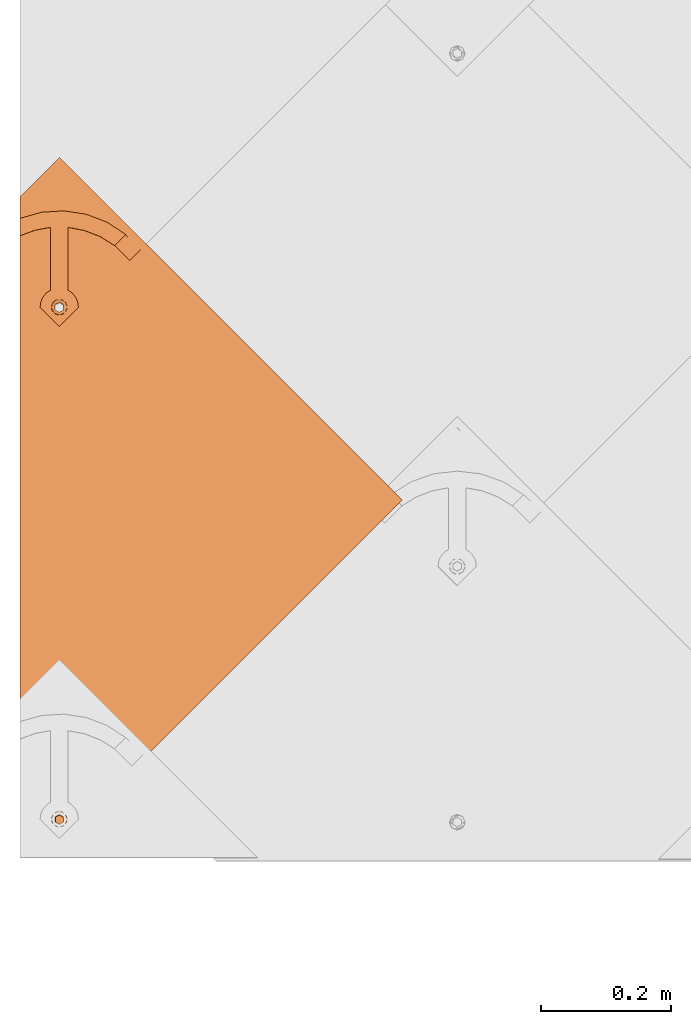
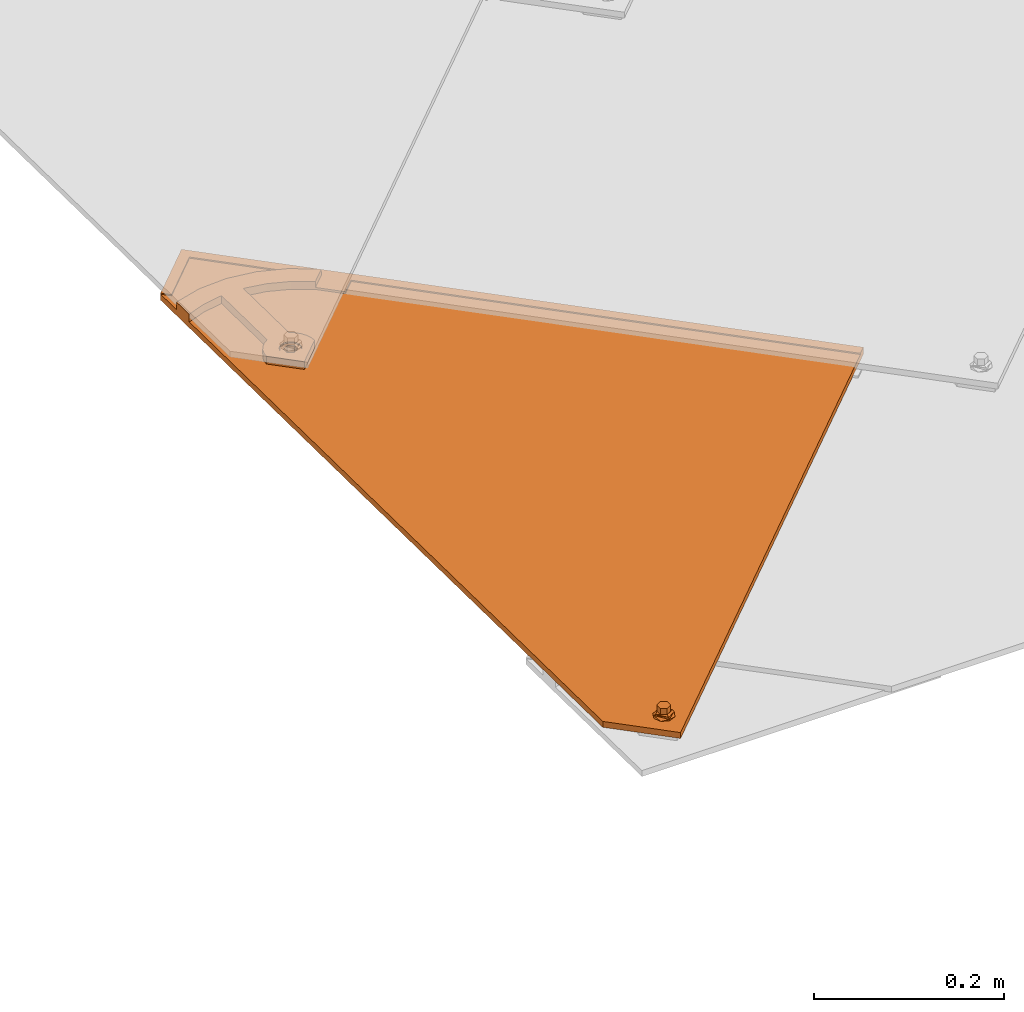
# One storey, part 70 of 133: 1 proxy.
"""IFC2X3 building model written with IfcOpenShell, lengths in millimetres."""

from ifc_helpers import new_model, entity, si_unit, converted_unit, derived_unit, direction, frame, origin, place, context, subcontext, project, spatial, faceted_brep, source, transform, mapped, material, material_list, type_object, type_shapes, element, save


model = new_model("IFC2X3")

# Units and contexts
model_context = context("Model", 3, precision=0.01, world=origin(), true_north=direction((6.12303176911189e-17, 1.0)))
body_context = subcontext(model_context, "Body", "Model", "MODEL_VIEW")
ifc_project = project(units=[si_unit("LENGTHUNIT", "METRE", prefix="MILLI"), si_unit("AREAUNIT", "SQUARE_METRE"), si_unit("VOLUMEUNIT", "CUBIC_METRE"), converted_unit("PLANEANGLEUNIT", "DEGREE", entity("IfcRatioMeasure", 0.0174532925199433), si_unit("PLANEANGLEUNIT", "RADIAN"), dimensions=[0, 0, 0, 0, 0, 0, 0]), si_unit("MASSUNIT", "GRAM", prefix="KILO"), derived_unit("MASSDENSITYUNIT", [(si_unit("MASSUNIT", "GRAM", prefix="KILO"), 1), (si_unit("LENGTHUNIT", "METRE"), -3)]), si_unit("TIMEUNIT", "SECOND"), si_unit("FREQUENCYUNIT", "HERTZ"), si_unit("THERMODYNAMICTEMPERATUREUNIT", "DEGREE_CELSIUS"), derived_unit("THERMALTRANSMITTANCEUNIT", [(si_unit("MASSUNIT", "GRAM", prefix="KILO"), 1), (si_unit("THERMODYNAMICTEMPERATUREUNIT", "KELVIN"), -1), (si_unit("TIMEUNIT", "SECOND"), -3)]), derived_unit("VOLUMETRICFLOWRATEUNIT", [(si_unit("LENGTHUNIT", "METRE"), 3), (si_unit("TIMEUNIT", "SECOND"), -1)]), si_unit("ELECTRICCURRENTUNIT", "AMPERE"), si_unit("ELECTRICVOLTAGEUNIT", "VOLT"), si_unit("POWERUNIT", "WATT"), si_unit("FORCEUNIT", "NEWTON", prefix="KILO"), si_unit("ILLUMINANCEUNIT", "LUX"), si_unit("LUMINOUSFLUXUNIT", "LUMEN"), si_unit("LUMINOUSINTENSITYUNIT", "CANDELA"), derived_unit("USERDEFINED", [(si_unit("MASSUNIT", "GRAM", prefix="KILO"), -1), (si_unit("LENGTHUNIT", "METRE"), -2), (si_unit("TIMEUNIT", "SECOND"), 3), (si_unit("LUMINOUSFLUXUNIT", "LUMEN"), 1)]), derived_unit("LINEARVELOCITYUNIT", [(si_unit("LENGTHUNIT", "METRE"), 1), (si_unit("TIMEUNIT", "SECOND"), -1)]), si_unit("PRESSUREUNIT", "PASCAL"), derived_unit("USERDEFINED", [(si_unit("LENGTHUNIT", "METRE"), -2), (si_unit("MASSUNIT", "GRAM", prefix="KILO"), 1), (si_unit("TIMEUNIT", "SECOND"), -2)])], contexts=[model_context])

# Site, building, storey
site_placement = place(None, origin())
site = spatial("IfcSite", under=ifc_project, at=site_placement, Name="Default", CompositionType="ELEMENT")
building_placement = place(site_placement, origin())
building = spatial("IfcBuilding", under=site, at=building_placement, CompositionType="ELEMENT")
storey_placement = place(building_placement, origin())
storey = spatial("IfcBuildingStorey", under=building, at=storey_placement, Name="Level 1", CompositionType="ELEMENT", Elevation=0.0)

# Proxy
ifc_material_1 = material(Name="Rubber - Sunstyle - Black")
ifc_material_2 = material(Name="Glass - Sunstyle - Tainted Black")
ifc_material_list_1 = material_list([ifc_material_1, ifc_material_2])
ifc_material_list_2 = material_list([ifc_material_1, ifc_material_2])
building_element_proxy_type = type_object("IfcBuildingElementProxyType", Name="Shingle Left - Black", PredefinedType="NOTDEFINED", material=ifc_material_list_2)
shared_shape = source(origin(), body_context, "Body", "Brep", [
    faceted_brep([(0.0, -484.792260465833, 4.00636906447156), (-5.77420283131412, -488.125530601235, 4.06219304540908), (-5.77420283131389, -487.757221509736, 26.0540623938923), (0.0, -484.423951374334, 25.9982384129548), (-5.77420283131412, -494.792070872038, 4.17384100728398), (-5.7742028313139, -494.42376178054, 26.1657103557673), (0.0, -498.12534100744, 4.22966498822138), (0.0, -497.757031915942, 26.2215343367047), (5.77420283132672, -494.792070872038, 4.17384100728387), (5.77420283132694, -494.42376178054, 26.1657103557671), (5.77420283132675, -488.125530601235, 4.06219304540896), (5.77420283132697, -487.757221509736, 26.0540623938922), (-8.60370416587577, -499.692989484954, 26.2539568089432), (0.0, -503.256260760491, 26.3136327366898), (-12.1674751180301, -491.090491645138, 26.1098863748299), (-8.60370416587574, -482.487993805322, 25.9658159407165), (0.0, -478.924722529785, 25.9061400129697), (8.60370416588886, -482.487993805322, 25.9658159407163), (12.1674751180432, -491.090491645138, 26.1098863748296), (8.60370416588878, -499.692989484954, 26.253956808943), (-11.324244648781, -488.795414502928, 28.4227283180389), (-9.75647455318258, -491.019476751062, 30.3502110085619), (0.0, -483.706401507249, 30.9829114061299), (0.0, -482.465903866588, 30.4025647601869), (0.0, -480.308353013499, 29.3931896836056), (0.0, -502.700216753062, 27.5886907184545), (0.0, -501.756640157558, 29.7523951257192), (0.0, -498.307264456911, 31.2274395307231), (0.0, -479.437758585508, 27.1991024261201), (-6.32324569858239, -494.657048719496, 31.1663074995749), (-6.32324569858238, -487.356617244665, 31.0440434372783), (11.3242446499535, -493.306834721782, 28.498283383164), (9.84888015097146, -492.093883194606, 30.2713428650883), (6.32324569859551, -487.356617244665, 31.0440434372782), (6.32324569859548, -494.657048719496, 31.1663074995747), (-6.32324569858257, -494.523020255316, 39.1691956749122), (0.0, -498.173235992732, 39.2303277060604), (0.0, -490.8728045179, 39.1080636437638), (-6.32324569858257, -487.222588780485, 39.0469316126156), (6.32324569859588, -494.523020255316, 39.1691956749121), (6.32324569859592, -487.222588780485, 39.0469316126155), (0.0, -483.572373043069, 38.9857995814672), (0.0, -491.458800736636, 4.11801702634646)], [[[0, 1, 2, 3]], [[1, 4, 5, 2]], [[4, 6, 7, 5]], [[6, 8, 9, 7]], [[8, 10, 11, 9]], [[10, 0, 3, 11]], [[12, 7, 13]], [[7, 12, 5]], [[14, 5, 12]], [[5, 14, 2]], [[15, 2, 14]], [[3, 2, 15]], [[15, 16, 3]], [[16, 17, 3]], [[11, 3, 17]], [[11, 17, 18]], [[9, 11, 18]], [[18, 19, 9]], [[7, 9, 19]], [[19, 13, 7]], [[20, 14, 12]], [[21, 22, 23, 24]], [[24, 20, 21]], [[25, 20, 12]], [[26, 27, 21]], [[15, 14, 20]], [[12, 13, 25]], [[20, 28, 15]], [[28, 20, 24]], [[21, 27, 29]], [[21, 29, 30]], [[26, 21, 20]], [[20, 25, 26]], [[15, 28, 16]], [[21, 30, 22]], [[31, 18, 17]], [[28, 31, 17]], [[32, 27, 26]], [[26, 31, 32]], [[26, 25, 31]], [[25, 19, 31]], [[17, 16, 28]], [[31, 19, 18]], [[24, 31, 28]], [[33, 34, 32]], [[23, 22, 33]], [[24, 32, 31]], [[27, 32, 34]], [[32, 23, 33]], [[19, 25, 13]], [[32, 24, 23]], [[35, 36, 37]], [[37, 38, 35]], [[36, 39, 37]], [[40, 37, 39]], [[37, 40, 41]], [[37, 41, 38]], [[42, 6, 4]], [[4, 1, 42]], [[1, 0, 42]], [[42, 8, 6]], [[0, 10, 42]], [[8, 42, 10]], [[22, 30, 38, 41]], [[30, 29, 35, 38]], [[29, 27, 36, 35]], [[27, 34, 39, 36]], [[34, 33, 40, 39]], [[33, 22, 41, 40]]]),
    faceted_brep([(0.0, 284.339364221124, 20.2838091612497), (0.0, 288.838732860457, 20.2084559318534), (-8.60370416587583, 287.902635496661, 20.224133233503), (8.60370416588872, 287.902635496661, 20.2241332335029), (6.64022859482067, 292.671933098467, 20.1442593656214), (12.1674751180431, 296.505133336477, 20.0800627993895), (6.64022859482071, 300.338333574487, 20.0158662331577), (8.6037041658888, 305.107631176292, 19.9359923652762), (0.0, 304.171533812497, 19.9516696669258), (0.0, 308.670902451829, 19.8763164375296), (-8.60370416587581, 305.107631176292, 19.9359923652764), (-6.64022859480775, 300.338333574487, 20.0158662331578), (-12.1674751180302, 296.505133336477, 20.0800627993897), (-6.64022859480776, 292.671933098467, 20.1442593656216), (-6.64022823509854, 300.070410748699, 4.01810959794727), (0.0, 303.90361077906, 3.95391303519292), (-6.64022823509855, 292.404010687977, 4.14650272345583), (0.0, 288.570810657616, 4.21069928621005), (6.64022823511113, 292.404010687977, 4.1465027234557), (6.64022823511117, 300.070410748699, 4.01810959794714), (-8.603704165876, 287.634712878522, 4.22637659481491), (0.0, 284.071441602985, 4.28605252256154), (-12.1674751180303, 296.237210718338, 4.08230616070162), (-8.60370416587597, 304.839708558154, 3.93823572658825), (0.0, 308.402979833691, 3.87855979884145), (8.60370416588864, 304.839708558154, 3.93823572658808), (12.1674751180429, 296.237210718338, 4.08230616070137), (8.60370416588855, 287.634712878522, 4.22637659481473)], [[[0, 1, 2]], [[1, 0, 3]], [[3, 4, 1]], [[4, 3, 5]], [[6, 4, 5]], [[5, 7, 6]], [[7, 8, 6]], [[8, 7, 9]], [[8, 9, 10]], [[10, 11, 8]], [[12, 11, 10]], [[2, 13, 12]], [[12, 13, 11]], [[13, 2, 1]], [[8, 11, 14, 15]], [[11, 13, 16, 14]], [[13, 1, 17, 16]], [[1, 4, 18, 17]], [[4, 6, 19, 18]], [[6, 8, 15, 19]], [[20, 17, 21]], [[17, 20, 16]], [[22, 16, 20]], [[14, 16, 22]], [[23, 14, 22]], [[15, 14, 23]], [[23, 24, 15]], [[24, 25, 15]], [[19, 15, 25]], [[19, 25, 26]], [[26, 18, 19]], [[26, 27, 18]], [[17, 18, 27]], [[27, 21, 17]], [[24, 23, 10, 9]], [[10, 23, 22, 12]], [[20, 21, 0, 2]], [[20, 2, 12, 22]], [[21, 27, 3, 0]], [[3, 27, 26, 5]], [[25, 24, 9, 7]], [[25, 7, 5, 26]]]),
    faceted_brep([(518.309865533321, -8.21171787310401, 16.4411500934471), (526.794551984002, 0.272968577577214, 16.299052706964), (526.794551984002, 0.298086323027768, 17.798842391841), (518.309865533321, -8.18660012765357, 17.9409397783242), (0.0, 509.952813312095, 7.76318349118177), (-51.6190674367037, 458.348219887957, 8.62743202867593), (-60.1037538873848, 466.832906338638, 8.48533464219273), (0.0, 526.919807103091, 7.47902856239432), (0.0, 526.944924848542, 8.97881824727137), (-60.1037538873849, 466.858024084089, 9.98512432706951), (-51.6190674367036, 458.373337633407, 10.1272217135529), (0.0, 509.977931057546, 9.26297317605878)], [[[0, 1, 2, 3]], [[1, 0, 4, 5, 6, 7]], [[2, 1, 7, 8]], [[3, 2, 8, 9, 10, 11]], [[0, 3, 11, 4]], [[5, 10, 9, 6]], [[8, 7, 6, 9]], [[4, 11, 10, 5]]]),
    faceted_brep([(3.08877637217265, 308.328619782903, 11.1398870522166), (0.0, 526.91980710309, 7.47902856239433), (-60.1037538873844, 466.832906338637, 8.48533464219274), (5.98294783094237, 307.129982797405, 11.1599612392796), (-0.0170521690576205, 308.737452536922, 11.133040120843), (8.46822920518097, 305.223226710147, 11.1918946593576), (10.3752526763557, 302.738293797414, 11.2335111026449), (11.5740577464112, 299.844528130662, 11.2819744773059), (526.794551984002, 0.272968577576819, 16.299052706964), (11.9829478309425, 296.739135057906, 11.3339820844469), (11.5740577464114, 293.63374198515, 11.3859896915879), (10.3752526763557, 290.739976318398, 11.4344530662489), (8.46822920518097, 288.255043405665, 11.4760695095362), (5.9829478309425, 286.348287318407, 11.5080029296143), (3.08877637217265, 285.149650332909, 11.5280771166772), (2.03352718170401, -483.329519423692, 24.3981910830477), (-60.1037538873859, -466.286969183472, 24.112770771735), (-0.0170521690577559, 284.74081757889, 11.5349240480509), (-3.12288071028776, 285.149650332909, 11.5280771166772), (-6.01705216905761, 286.348287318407, 11.5080029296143), (-8.50233354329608, 288.255043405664, 11.4760695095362), (-10.409357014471, 290.739976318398, 11.4344530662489), (-11.6081620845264, 293.63374198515, 11.3859896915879), (-12.0170521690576, 296.739135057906, 11.3339820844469), (-11.6081620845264, 299.844528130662, 11.2819744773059), (-10.4093570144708, 302.738293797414, 11.2335111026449), (-8.50233354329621, 305.223226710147, 11.1918946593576), (-6.01705216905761, 307.129982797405, 11.1599612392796), (-3.12288071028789, 308.328619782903, 11.1398870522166), (-0.0370251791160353, -483.056964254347, 24.3936264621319), (-2.10757753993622, -483.329519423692, 24.3981910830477), (-4.03702517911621, -484.128610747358, 24.411573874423), (-5.69387942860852, -485.399781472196, 24.4328628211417), (-6.96522840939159, -487.056403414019, 24.4606071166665), (-7.76443178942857, -488.985580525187, 24.4929160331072), (-8.03702517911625, -491.055842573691, 24.5275877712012), (-7.76443178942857, -493.126104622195, 24.5622595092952), (-6.96522840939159, -495.055281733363, 24.5945684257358), (0.0, -526.373869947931, 25.1190768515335), (-5.69387942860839, -496.711903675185, 24.6223127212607), (-4.03702517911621, -497.983074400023, 24.6436016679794), (-2.10757753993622, -498.782165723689, 24.6569844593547), (-0.0370251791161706, -499.054720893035, 24.6615490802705), (2.03352718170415, -498.782165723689, 24.6569844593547), (3.96297482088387, -497.983074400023, 24.6436016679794), (5.61982907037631, -496.711903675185, 24.6223127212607), (6.89117805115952, -495.055281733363, 24.5945684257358), (7.6903814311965, -493.126104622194, 24.5622595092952), (3.96297482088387, -484.128610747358, 24.411573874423), (5.61982907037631, -485.399781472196, 24.4328628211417), (6.89117805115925, -487.056403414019, 24.4606071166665), (7.6903814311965, -488.985580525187, 24.4929160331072), (7.96297482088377, -491.055842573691, 24.5275877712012), (-60.1037538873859, -466.412557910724, 16.6138223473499), (-6.96522840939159, -487.181992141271, 16.9616586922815), (-7.7644317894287, -489.111169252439, 16.9939676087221), (-5.69387942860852, -485.525370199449, 16.9339143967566), (-8.03702517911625, -491.181431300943, 17.0286393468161), (-7.76443178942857, -493.251693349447, 17.0633110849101), (-6.96522840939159, -495.180870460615, 17.0956200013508), (0.0, -526.499458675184, 17.6201284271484), (-4.03702517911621, -484.254199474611, 16.9126254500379), (-2.10757753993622, -483.455108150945, 16.8992426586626), (-0.0370251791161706, -483.182552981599, 16.8946780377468), (2.03352718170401, -483.455108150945, 16.8992426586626), (3.08877637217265, 285.024061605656, 4.02912869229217), (-0.0170521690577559, 284.615228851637, 4.03597562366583), (-3.12288071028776, 285.024061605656, 4.02912869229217), (-6.01705216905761, 286.222698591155, 4.00905450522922), (-8.50233354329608, 288.129454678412, 3.97712108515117), (-10.409357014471, 290.614387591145, 3.93550464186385), (-11.6081620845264, 293.508153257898, 3.88704126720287), (-60.1037538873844, 466.707317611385, 0.986386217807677), (-12.0170521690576, 296.613546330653, 3.83503366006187), (-11.6081620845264, 299.718939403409, 3.78302605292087), (-10.4093570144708, 302.612705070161, 3.73456267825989), (-8.50233354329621, 305.097637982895, 3.69294623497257), (-6.01705216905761, 307.004394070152, 3.66101281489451), (-3.12288071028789, 308.203031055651, 3.64093862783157), (-0.0170521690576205, 308.61186380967, 3.63409169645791), (3.08877637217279, 308.203031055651, 3.64093862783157), (0.0, 526.794218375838, -0.0199198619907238), (5.98294783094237, 307.004394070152, 3.66101281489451), (8.46822920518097, 305.097637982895, 3.69294623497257), (10.3752526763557, 302.612705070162, 3.73456267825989), (11.5740577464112, 299.718939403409, 3.78302605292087), (526.794551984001, 0.147379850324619, 8.8001042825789), (3.96297482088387, -484.254199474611, 16.9126254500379), (5.61982907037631, -485.525370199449, 16.9339143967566), (7.6903814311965, -493.251693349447, 17.0633110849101), (7.96297482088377, -491.181431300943, 17.0286393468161), (7.6903814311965, -489.111169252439, 16.9939676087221), (6.89117805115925, -487.181992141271, 16.9616586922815), (5.9829478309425, 286.222698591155, 4.00905450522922), (8.46822920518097, 288.129454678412, 3.97712108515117), (11.9829478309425, 296.613546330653, 3.83503366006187), (11.5740577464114, 293.508153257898, 3.88704126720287), (10.3752526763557, 290.614387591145, 3.93550464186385), (-5.69387942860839, -496.837492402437, 17.1233642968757), (-4.03702517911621, -498.108663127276, 17.1446532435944), (-2.10757753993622, -498.907754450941, 17.1580360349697), (-0.0370251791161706, -499.180309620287, 17.1626006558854), (2.03352718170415, -498.907754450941, 17.1580360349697), (3.96297482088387, -498.108663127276, 17.1446532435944), (5.61982907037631, -496.837492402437, 17.1233642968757), (6.89117805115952, -495.180870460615, 17.0956200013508)], [[[0, 1, 2]], [[0, 3, 1]], [[4, 0, 2]], [[1, 3, 5]], [[6, 1, 5]], [[7, 1, 6]], [[7, 8, 1]], [[9, 8, 7]], [[8, 9, 10]], [[8, 10, 11]], [[11, 12, 8]], [[12, 13, 8]], [[13, 14, 8]], [[14, 15, 8]], [[14, 16, 15]], [[16, 14, 17]], [[16, 17, 18]], [[16, 18, 19]], [[20, 16, 19]], [[20, 21, 16]], [[21, 22, 16]], [[23, 2, 22]], [[2, 16, 22]], [[23, 24, 2]], [[25, 2, 24]], [[25, 26, 2]], [[26, 27, 2]], [[28, 2, 27]], [[4, 2, 28]], [[16, 29, 15]], [[29, 16, 30]], [[30, 16, 31]], [[16, 32, 31]], [[32, 16, 33]], [[33, 16, 34]], [[35, 34, 16]], [[35, 16, 36]], [[37, 36, 16]], [[16, 38, 37]], [[39, 37, 38]], [[40, 39, 38]], [[41, 40, 38]], [[38, 42, 41]], [[42, 38, 43]], [[44, 43, 38]], [[44, 38, 45]], [[46, 45, 38]], [[47, 46, 38]], [[47, 38, 8]], [[48, 8, 15]], [[48, 49, 8]], [[50, 8, 49]], [[51, 8, 50]], [[52, 47, 8]], [[52, 8, 51]], [[53, 54, 55]], [[54, 53, 56]], [[53, 55, 57]], [[57, 58, 53]], [[58, 59, 53]], [[53, 59, 60]], [[61, 56, 53]], [[62, 61, 53]], [[62, 53, 63]], [[64, 63, 53]], [[53, 65, 64]], [[65, 53, 66]], [[66, 53, 67]], [[67, 53, 68]], [[69, 68, 53]], [[70, 69, 53]], [[71, 70, 53]], [[71, 53, 72]], [[73, 71, 72]], [[74, 73, 72]], [[75, 74, 72]], [[76, 75, 72]], [[72, 77, 76]], [[78, 77, 72]], [[79, 78, 72]], [[79, 72, 80]], [[80, 72, 81]], [[82, 80, 81]], [[81, 83, 82]], [[83, 81, 84]], [[84, 81, 85]], [[86, 85, 81]], [[64, 86, 87]], [[88, 87, 86]], [[60, 89, 86]], [[90, 86, 89]], [[90, 91, 86]], [[91, 92, 86]], [[88, 86, 92]], [[65, 86, 64]], [[65, 93, 86]], [[93, 94, 86]], [[86, 95, 85]], [[95, 86, 96]], [[97, 96, 86]], [[97, 86, 94]], [[98, 60, 59]], [[98, 99, 60]], [[99, 100, 60]], [[101, 60, 100]], [[60, 101, 102]], [[60, 102, 103]], [[103, 104, 60]], [[104, 105, 60]], [[105, 89, 60]], [[2, 1, 81, 72]], [[38, 16, 53, 60]], [[8, 38, 60, 86]], [[1, 8, 86, 81]], [[35, 57, 55, 34]], [[34, 55, 54, 33]], [[31, 32, 56, 61]], [[56, 32, 33, 54]], [[30, 31, 61, 62]], [[30, 62, 63, 29]], [[29, 63, 64, 15]], [[15, 64, 87, 48]], [[50, 49, 88, 92]], [[88, 49, 48, 87]], [[51, 50, 92, 91]], [[51, 91, 90, 52]], [[52, 90, 89, 47]], [[47, 89, 105, 46]], [[44, 45, 104, 103]], [[104, 45, 46, 105]], [[43, 44, 103, 102]], [[43, 102, 101, 42]], [[42, 101, 100, 41]], [[41, 100, 99, 40]], [[37, 39, 98, 59]], [[98, 39, 40, 99]], [[36, 37, 59, 58]], [[36, 58, 57, 35]], [[23, 73, 74, 24]], [[24, 74, 75, 25]], [[27, 26, 76, 77]], [[76, 26, 25, 75]], [[28, 27, 77, 78]], [[28, 78, 79, 4]], [[4, 79, 80, 0]], [[0, 80, 82, 3]], [[6, 5, 83, 84]], [[83, 5, 3, 82]], [[7, 6, 84, 85]], [[7, 85, 95, 9]], [[9, 95, 96, 10]], [[10, 96, 97, 11]], [[13, 12, 94, 93]], [[94, 12, 11, 97]], [[14, 13, 93, 65]], [[14, 65, 66, 17]], [[17, 66, 67, 18]], [[18, 67, 68, 19]], [[21, 20, 69, 70]], [[69, 20, 19, 68]], [[22, 21, 70, 71]], [[22, 71, 73, 23]], [[16, 2, 72, 53]]]),
    faceted_brep([(-60.2957264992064, 433.002673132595, 19.0533091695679), (-60.2957264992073, 406.276440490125, 19.5009070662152), (-37.4519584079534, 414.732964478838, 19.3592813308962), (-27.2461400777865, 442.315205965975, 18.8973474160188), (-13.4919726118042, 419.124350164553, 19.2857365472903), (7.02526451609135, 444.434715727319, 18.8618509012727), (13.1080273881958, 419.12435016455, 19.2857365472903), (13.1080273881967, 322.716549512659, 20.9003273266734), (-13.4919726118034, 322.716549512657, 20.9003273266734), (-0.191972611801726, 308.510747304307, 21.1382391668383), (-3.29780115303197, 308.101914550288, 21.145086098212), (-6.19197261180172, 306.90327756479, 21.1651602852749), (-18.8960787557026, 319.178501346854, 20.9595808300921), (-8.67725398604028, 304.996521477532, 21.197093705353), (-23.3966230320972, 314.545495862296, 21.0371721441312), (-10.584277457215, 302.511588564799, 21.2387101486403), (-26.776192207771, 309.041345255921, 21.1293529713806), (-11.7830825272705, 299.617822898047, 21.2871735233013), (-28.8715253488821, 302.931945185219, 21.231670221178), (-12.1919726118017, 296.512429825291, 21.3391811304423), (-29.5814006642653, 296.512429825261, 21.3391811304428), (-11.7830825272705, 293.407036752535, 21.3911887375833), (-10.5842774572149, 290.513271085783, 21.4396521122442), (-8.67725398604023, 288.028338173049, 21.4812685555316), (-0.191972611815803, 267.127122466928, 21.8313119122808), (-6.19197261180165, 286.121582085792, 21.5132019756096), (-3.2978011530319, 284.922945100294, 21.5332761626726), (-0.19197261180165, 284.514112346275, 21.5401230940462), (2.9138559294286, 284.922945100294, 21.5332761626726), (5.80802738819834, 286.121582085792, 21.5132019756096), (8.29330876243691, 288.028338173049, 21.4812685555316), (29.197455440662, 296.512429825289, 21.3391811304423), (10.2003322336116, 290.513271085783, 21.4396521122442), (11.3991373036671, 293.407036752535, 21.3911887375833), (11.8080273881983, 296.512429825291, 21.3391811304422), (28.4875801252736, 302.931945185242, 21.2316702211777), (11.3991373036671, 299.617822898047, 21.2871735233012), (26.3922469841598, 309.041345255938, 21.1293529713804), (10.2003322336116, 302.511588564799, 21.2387101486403), (23.0126778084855, 314.545495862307, 21.037172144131), (8.29330876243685, 304.996521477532, 21.197093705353), (18.5121335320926, 319.178501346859, 20.959580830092), (5.80802738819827, 306.90327756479, 21.1651602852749), (2.91385592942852, 308.101914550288, 21.145086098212), (40.9707248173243, 439.265481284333, 18.9484227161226), (38.5777701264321, 414.309469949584, 19.3663738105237), (73.0571986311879, 427.0409551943, 19.1531531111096), (62.7323605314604, 404.905836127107, 19.523861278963), (84.7524233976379, 391.232440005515, 19.7528566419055), (101.835599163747, 408.313220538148, 19.4667960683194), (-10.5842774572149, 290.345819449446, 11.4410542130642), (-29.5814006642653, 296.344978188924, 11.3405832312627), (-11.7830825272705, 293.239585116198, 11.3925908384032), (-8.67725398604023, 287.860886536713, 11.4826706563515), (-0.191972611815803, 266.959670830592, 11.8327140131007), (-6.19197261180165, 285.954130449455, 11.5146040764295), (-3.2978011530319, 284.755493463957, 11.5346782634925), (-0.19197261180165, 284.346660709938, 11.5415251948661), (2.9138559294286, 284.755493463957, 11.5346782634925), (5.80802738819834, 285.954130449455, 11.5146040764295), (8.29330876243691, 287.860886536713, 11.4826706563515), (29.197455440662, 296.344978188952, 11.3405832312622), (10.2003322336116, 290.345819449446, 11.4410542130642), (11.3991373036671, 293.239585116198, 11.3925908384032), (11.8080273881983, 296.344978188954, 11.3405832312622), (28.4875801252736, 302.764493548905, 11.2330723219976), (11.3991373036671, 299.45037126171, 11.2885756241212), (26.3922469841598, 308.873893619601, 11.1307550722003), (10.2003322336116, 302.344136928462, 11.2401122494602), (23.0126778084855, 314.378044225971, 11.038574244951), (8.29330876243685, 304.829069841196, 11.1984958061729), (18.5121335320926, 319.011049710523, 10.960982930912), (5.80802738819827, 306.735825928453, 11.1665623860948), (13.1080273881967, 322.549097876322, 10.9017294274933), (2.91385592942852, 307.934462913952, 11.1464881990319), (-0.191972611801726, 308.34329566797, 11.1396412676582), (-13.4919726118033, 322.54909787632, 10.9017294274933), (-3.29780115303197, 307.934462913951, 11.1464881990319), (-6.19197261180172, 306.735825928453, 11.1665623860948), (-18.8960787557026, 319.011049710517, 10.9609829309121), (-8.67725398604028, 304.829069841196, 11.1984958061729), (-23.3966230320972, 314.37804422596, 11.0385742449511), (-10.584277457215, 302.344136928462, 11.2401122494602), (-26.776192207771, 308.873893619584, 11.1307550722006), (-11.7830825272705, 299.45037126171, 11.2885756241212), (-28.8715253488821, 302.764493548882, 11.233072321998), (-12.1919726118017, 296.344978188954, 11.3405832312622), (-13.4919726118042, 418.956898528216, 9.28713864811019), (13.1080273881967, 418.956898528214, 9.28713864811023), (7.02526451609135, 444.267264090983, 8.86325300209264), (-27.2461400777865, 442.147754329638, 8.89874951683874), (-37.4519584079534, 414.565512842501, 9.36068343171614), (-60.2957264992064, 432.835221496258, 9.05471127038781), (-60.2957264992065, 406.108988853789, 9.5023091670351), (40.9707248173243, 439.098029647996, 8.94982481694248), (38.5777701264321, 414.142018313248, 9.36777591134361), (73.0571986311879, 426.873503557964, 9.15455521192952), (62.7323605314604, 404.738384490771, 9.5252633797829), (84.9699227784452, 391.282457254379, 9.75061668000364), (101.363550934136, 407.672574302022, 9.47612300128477), (101.835599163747, 408.145768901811, 9.46819816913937), (107.666988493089, 402.274283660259, 9.56653093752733), (113.684870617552, 396.559480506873, 9.66223967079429), (108.027097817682, 368.228515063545, 10.1367128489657), (125.024248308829, 385.223282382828, 9.85209278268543), (84.7524233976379, 391.064988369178, 9.75425874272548), (125.024248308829, 385.265145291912, 12.3517422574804), (113.684870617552, 396.601343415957, 12.1618891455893), (107.666988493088, 402.316146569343, 12.0661804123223), (101.362944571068, 407.715043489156, 11.975762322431), (84.9693798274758, 391.324863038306, 12.2502570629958), (108.027097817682, 368.270377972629, 12.6363623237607)], [[[0, 1, 2]], [[0, 2, 3]], [[2, 4, 3]], [[3, 4, 5]], [[5, 4, 6]], [[7, 6, 4]], [[7, 4, 8]], [[9, 7, 8]], [[9, 8, 10]], [[10, 8, 11]], [[12, 11, 8]], [[11, 12, 13]], [[14, 13, 12]], [[13, 14, 15]], [[15, 14, 16]], [[17, 15, 16]], [[18, 17, 16]], [[18, 19, 17]], [[19, 18, 20]], [[20, 21, 19]], [[20, 22, 21]], [[22, 20, 23]], [[23, 20, 24]], [[24, 25, 23]], [[26, 25, 24]], [[24, 27, 26]], [[28, 27, 24]], [[28, 24, 29]], [[30, 29, 24]], [[30, 24, 31]], [[31, 32, 30]], [[33, 32, 31]], [[31, 34, 33]], [[35, 34, 31]], [[34, 35, 36]], [[36, 35, 37]], [[36, 37, 38]], [[38, 37, 39]], [[39, 40, 38]], [[39, 41, 40]], [[7, 42, 41]], [[40, 41, 42]], [[42, 7, 43]], [[43, 7, 9]], [[44, 5, 6]], [[44, 6, 45]], [[45, 46, 44]], [[46, 45, 47]], [[47, 48, 46]], [[49, 46, 48]], [[50, 51, 52]], [[51, 50, 53]], [[54, 51, 53]], [[53, 55, 54]], [[56, 54, 55]], [[57, 54, 56]], [[57, 58, 54]], [[58, 59, 54]], [[60, 54, 59]], [[60, 61, 54]], [[60, 62, 61]], [[62, 63, 61]], [[63, 64, 61]], [[64, 65, 61]], [[65, 64, 66]], [[66, 67, 65]], [[68, 67, 66]], [[67, 68, 69]], [[69, 68, 70]], [[71, 69, 70]], [[71, 70, 72]], [[72, 73, 71]], [[72, 74, 73]], [[75, 73, 74]], [[76, 73, 75]], [[77, 76, 75]], [[76, 77, 78]], [[79, 76, 78]], [[78, 80, 79]], [[81, 79, 80]], [[81, 80, 82]], [[81, 82, 83]], [[82, 84, 83]], [[84, 85, 83]], [[86, 85, 84]], [[52, 51, 86]], [[85, 86, 51]], [[73, 76, 87]], [[88, 73, 87]], [[88, 87, 89]], [[90, 89, 87]], [[87, 91, 90]], [[91, 92, 90]], [[93, 92, 91]], [[88, 89, 94]], [[88, 94, 95]], [[96, 95, 94]], [[96, 97, 95]], [[98, 97, 96]], [[96, 99, 98]], [[96, 100, 99]], [[98, 99, 101]], [[102, 98, 101]], [[98, 102, 103]], [[104, 103, 102]], [[105, 97, 98]], [[8, 4, 87, 76]], [[12, 8, 76, 79]], [[14, 12, 79, 81]], [[81, 83, 16, 14]], [[18, 16, 83, 85]], [[20, 18, 85, 51]], [[24, 20, 51, 54]], [[31, 24, 54, 61]], [[35, 31, 61, 65]], [[37, 35, 65, 67]], [[67, 69, 39, 37]], [[41, 39, 69, 71]], [[7, 41, 71, 73]], [[6, 7, 73, 88]], [[46, 49, 100, 96]], [[44, 46, 96, 94]], [[94, 89, 5, 44]], [[3, 5, 89, 90]], [[3, 90, 92, 0]], [[19, 86, 84, 17]], [[17, 84, 82, 15]], [[11, 13, 80, 78]], [[82, 80, 13, 15]], [[10, 11, 78, 77]], [[75, 9, 10, 77]], [[43, 74, 72, 42]], [[42, 72, 70, 40]], [[36, 38, 68, 66]], [[70, 68, 38, 40]], [[34, 36, 66, 64]], [[43, 9, 75, 74]], [[34, 64, 63, 33]], [[33, 63, 62, 32]], [[29, 30, 60, 59]], [[62, 60, 30, 32]], [[28, 29, 59, 58]], [[57, 27, 28, 58]], [[26, 56, 55, 25]], [[25, 55, 53, 23]], [[21, 22, 50, 52]], [[53, 50, 22, 23]], [[19, 21, 52, 86]], [[26, 27, 57, 56]], [[106, 107, 108, 109, 110, 111]], [[107, 106, 104, 102]], [[106, 111, 103, 104]], [[107, 102, 101, 108]], [[101, 99, 109]], [[101, 109, 108]], [[111, 110, 98, 103]], [[48, 110, 109]], [[110, 48, 105]], [[49, 48, 109, 100]], [[105, 98, 110]], [[99, 100, 109]], [[93, 91, 2, 1]], [[87, 4, 2, 91]], [[88, 95, 45, 6]], [[95, 97, 47, 45]], [[97, 105, 48, 47]], [[1, 0, 92, 93]]]),
])
type_shapes(building_element_proxy_type, [shared_shape])
proxy_placement = place(storey_placement, frame((-18986.8273799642, 15076.3397846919, 0.0)))
element("IfcBuildingElementProxy", 1, at=proxy_placement, inside=storey, type_object=building_element_proxy_type, material=ifc_material_list_1, Name="Roofing_Panels_SunStyle_Tile_Shingle-Left:Shingle Left - Black", ObjectType="Roofing_Panels_SunStyle_Tile_Shingle-Left:Shingle Left - Black", context=body_context, shape_type="MappedRepresentation", body=[
    mapped(shared_shape, transform((0.0, 0.0, 0.0), scale=1.0)),
])

save(model, "model.ifc")
